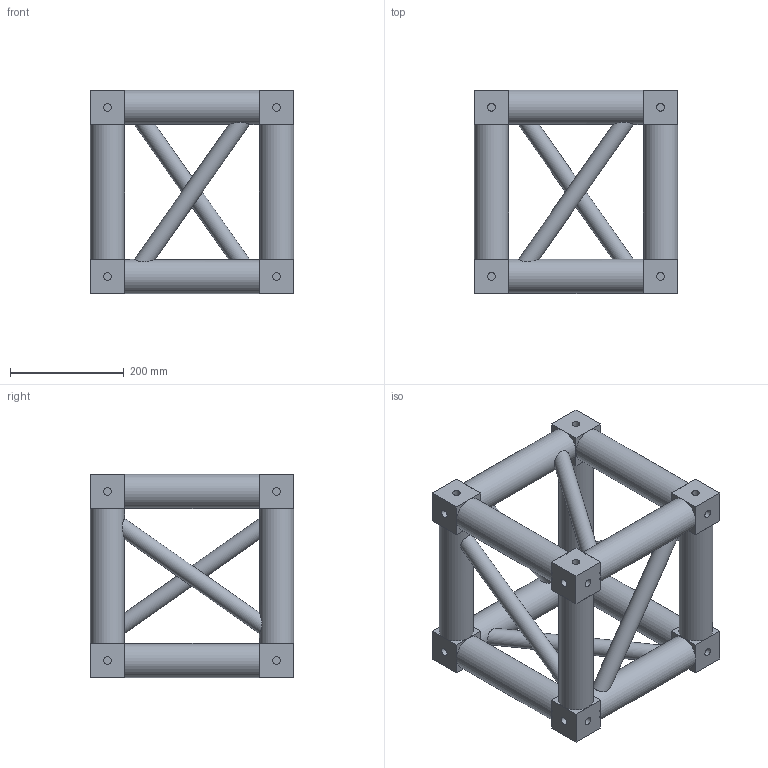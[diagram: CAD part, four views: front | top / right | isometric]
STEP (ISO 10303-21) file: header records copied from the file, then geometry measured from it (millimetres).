
FILE_DESCRIPTION(/* description */ (''),/* implementation_level */ '2;1');
FILE_NAME(/* name */ 'M:\Symbolen_NIEUW\STP\Boxcorner\111130022.stp',/* time_stamp */ '2015-05-19T13:16:53+02:00',/* author */ ('Stephan'),/* organization */ (''),/* preprocessor_version */ 'ST-DEVELOPER v15.6',/* originating_system */ 'Autodesk Inventor 2015',/* authorisation */ '');
FILE_SCHEMA (('AUTOMOTIVE_DESIGN { 1 0 10303 214 3 1 1 }'));
Length unit declared in the file: millimetre
Products named in the file (1): 160024215
Bounding box: 357 x 357 x 357 mm (x, y, z)
Volume: 10819760.9 mm3; surface area: 846240.4 mm2
Topology: 1 solids, 1 shells, 216 faces, 550 edges, 315 vertices
Faces by surface type: plane 150, cylinder 66
Full cylindrical faces by diameter (mm): 13.835 x48, 30 x6, 60 x12
Entity records: 6669 total; most frequent: CARTESIAN_POINT 1557, DIRECTION 1106, ORIENTED_EDGE 864, AXIS2_PLACEMENT_3D 469, EDGE_CURVE 432, EDGE_LOOP 318, VERTEX_POINT 266, STYLED_ITEM 217
